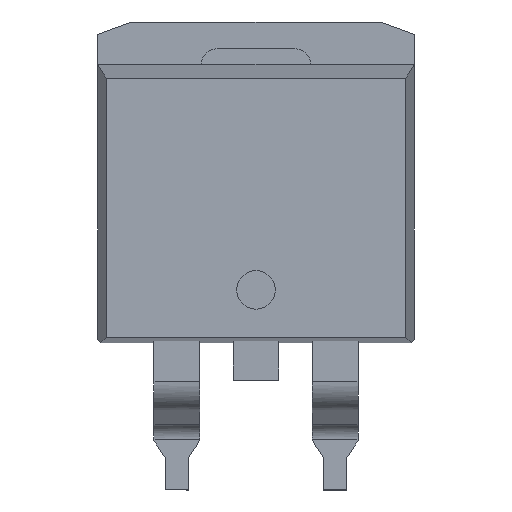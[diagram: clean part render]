
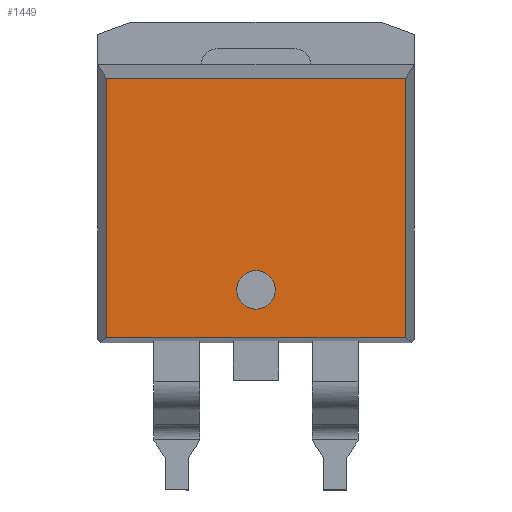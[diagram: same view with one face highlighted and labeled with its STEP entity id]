
A CAD part, top view. The second image highlights one B-rep face of the part: STEP entity #1449.
In plain terms, the highlighted planar face has unit normal (0, 0, 1).
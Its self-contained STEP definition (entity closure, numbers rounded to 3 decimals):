
#40=CIRCLE('',#1596,0.617);
#189=ORIENTED_EDGE('',*,*,#546,.T.);
#190=ORIENTED_EDGE('',*,*,#547,.T.);
#191=ORIENTED_EDGE('',*,*,#548,.T.);
#192=ORIENTED_EDGE('',*,*,#549,.T.);
#193=ORIENTED_EDGE('',*,*,#550,.T.);
#546=EDGE_CURVE('',#732,#732,#40,.T.);
#547=EDGE_CURVE('',#733,#734,#887,.T.);
#548=EDGE_CURVE('',#734,#735,#888,.T.);
#549=EDGE_CURVE('',#735,#736,#889,.T.);
#550=EDGE_CURVE('',#736,#733,#890,.T.);
#732=VERTEX_POINT('',#2229);
#733=VERTEX_POINT('',#2231);
#734=VERTEX_POINT('',#2232);
#735=VERTEX_POINT('',#2234);
#736=VERTEX_POINT('',#2236);
#887=LINE('',#2230,#1068);
#888=LINE('',#2233,#1069);
#889=LINE('',#2235,#1070);
#890=LINE('',#2237,#1071);
#1068=VECTOR('',#1808,1000.);
#1069=VECTOR('',#1809,1000.);
#1070=VECTOR('',#1810,1000.);
#1071=VECTOR('',#1811,1000.);
#1207=EDGE_LOOP('',(#189));
#1208=EDGE_LOOP('',(#190,#191,#192,#193));
#1294=FACE_BOUND('',#1207,.T.);
#1295=FACE_BOUND('',#1208,.T.);
#1377=PLANE('',#1595);
#1449=ADVANCED_FACE('',(#1294,#1295),#1377,.F.);
#1595=AXIS2_PLACEMENT_3D('',#2227,#1804,#1805);
#1596=AXIS2_PLACEMENT_3D('',#2228,#1806,#1807);
#1804=DIRECTION('',(0.,0.,-1.));
#1805=DIRECTION('',(-1.,0.,0.));
#1806=DIRECTION('',(0.,0.,-1.));
#1807=DIRECTION('',(0.,1.,0.));
#1808=DIRECTION('',(0.,-1.,0.));
#1809=DIRECTION('',(1.,0.,0.));
#1810=DIRECTION('',(0.,1.,0.));
#1811=DIRECTION('',(-1.,0.,0.));
#2227=CARTESIAN_POINT('',(0.,0.,3.175));
#2228=CARTESIAN_POINT('',(0.,-1.093,3.175));
#2229=CARTESIAN_POINT('',(0.,-0.475,3.175));
#2230=CARTESIAN_POINT('',(-4.803,0.,3.175));
#2231=CARTESIAN_POINT('',(-4.803,5.694,3.175));
#2232=CARTESIAN_POINT('',(-4.803,-2.609,3.175));
#2233=CARTESIAN_POINT('',(0.,-2.609,3.175));
#2234=CARTESIAN_POINT('',(4.803,-2.609,3.175));
#2235=CARTESIAN_POINT('',(4.803,0.,3.175));
#2236=CARTESIAN_POINT('',(4.803,5.694,3.175));
#2237=CARTESIAN_POINT('',(0.,5.694,3.175));
